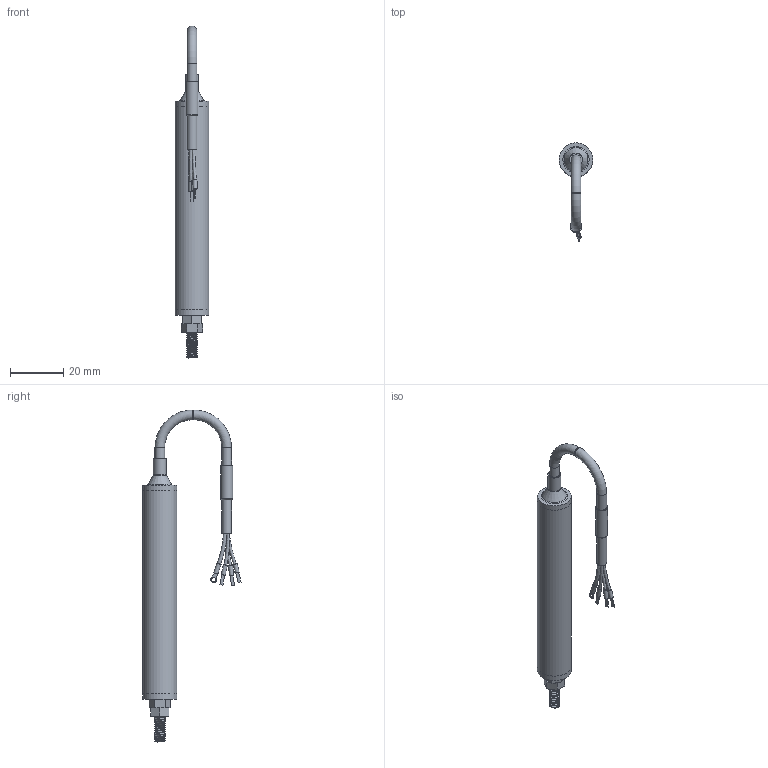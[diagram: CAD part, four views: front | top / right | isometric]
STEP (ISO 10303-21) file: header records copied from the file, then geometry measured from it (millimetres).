
FILE_DESCRIPTION(/* description */ (''),/* implementation_level */ '2;1');
FILE_NAME(/* name */ 'LPPS-12-025-A Assembly (wrapped).step',/* time_stamp */ '2023-10-10T09:59:05-04:00',/* author */ ('TSC_Grant'),/* organization */ (''),/* preprocessor_version */ 'ST-DEVELOPER v19.2',/* originating_system */ 'Autodesk Inventor 2024',/* authorisation */ '');
FILE_SCHEMA (('AUTOMOTIVE_DESIGN { 1 0 10303 214 3 1 1 }'));
Length unit declared in the file: inch
Products named in the file (4): LPPS-12-010-A Assembly (wrapped); LPPS-12-010-A Body (wrapped); LPPS-12-010-A Assembly_Simplify_1; Wire
Assembly tree (3 placements, depth 2):
  LPPS-12-010-A Assembly (wrapped)
    LPPS-12-010-A Body (wrapped)
    LPPS-12-010-A Assembly_Simplify_1
    Wire
Bounding box: 12.7 x 36.8 x 124.24 mm (x, y, z)
Volume: 11007.8 mm3; surface area: 7295.5 mm2
Topology: 13 solids, 13 shells, 134 faces, 289 edges, 192 vertices
Faces by surface type: plane 75, cylinder 45, bspline 8, torus 5, cone 1
Full cylindrical faces by diameter (mm): 1.016 x3, 1.27 x1, 1.524 x3, 1.651 x2, 3.632 x6, 3.937 x9, 4.191 x1, 4.445 x1, 4.826 x1, 12.7 x3
Entity records: 5519 total; most frequent: CARTESIAN_POINT 2228, DIRECTION 626, ORIENTED_EDGE 578, EDGE_CURVE 289, AXIS2_PLACEMENT_3D 239, VERTEX_POINT 192, EDGE_LOOP 151, LINE 148
